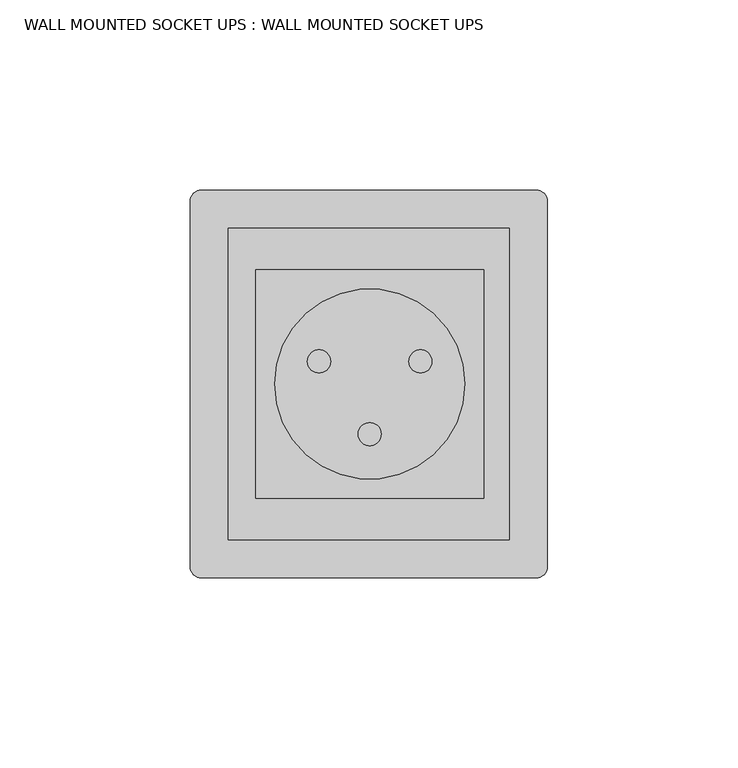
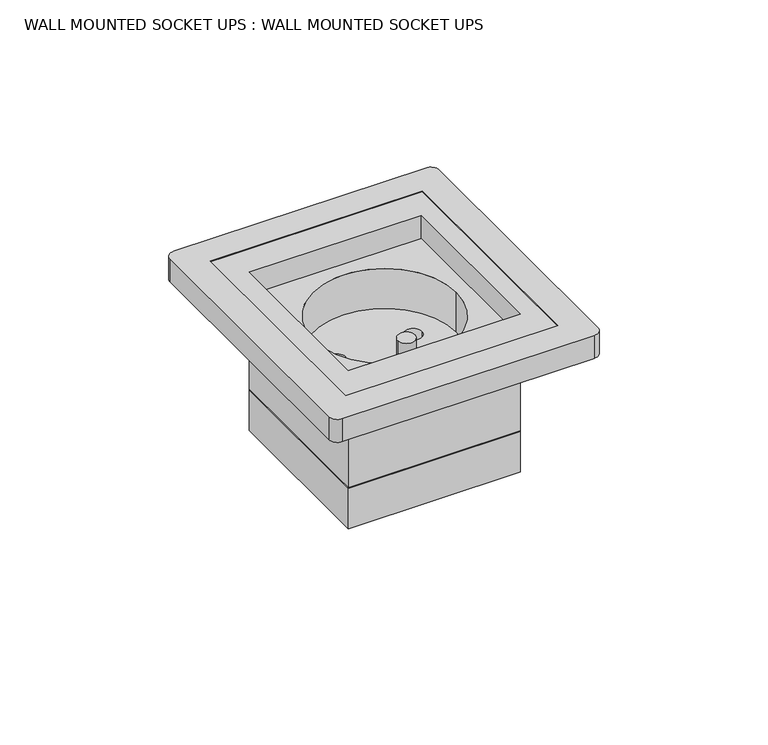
"""IFC4 building model written with IfcOpenShell, lengths in millimetres: proxy geometry, WALL MOUNTED SOCKET UPS : WALL MOUNTED SOCKET UPS."""

from ifc_helpers import new_model, si_unit, point, frame, frame_2d, origin, origin_with_axes, origin_2d, place, context, project, spatial, polyline, circle_curve, trimmed, segment, composite_curve, outline, extrude, source, transform, mapped, element, save


def wall_mounted_socket_ups_wall_mounted_socket_ups_4524048d(model_context):
    return source(origin(), model_context, "Body", "SweptSolid", [
        extrude(outline(composite_curve([segment(trimmed(circle_curve(frame_2d((-44.25, 48.0)), 3.0), [point((-47.25, 48.0))], [point((-44.25, 51.0))], False, "CARTESIAN"), True, "CONTINUOUS"), segment(polyline([(-44.25, 51.0), (43.75, 51.0)]), True, "CONTINUOUS"), segment(trimmed(circle_curve(frame_2d((43.75, 48.0)), 3.0), [point((43.75, 51.0))], [point((46.75, 48.0))], False, "CARTESIAN"), True, "CONTINUOUS"), segment(polyline([(46.75, 48.0), (46.75, -48.0)]), True, "CONTINUOUS"), segment(trimmed(circle_curve(frame_2d((43.75, -48.0)), 3.0), [point((46.75, -48.0))], [point((43.75, -51.0))], False, "CARTESIAN"), True, "CONTINUOUS"), segment(polyline([(43.75, -51.0), (-44.25, -51.0)]), True, "CONTINUOUS"), segment(trimmed(circle_curve(frame_2d((-44.25, -48.0)), 3.0), [point((-44.25, -51.0))], [point((-47.25, -48.0))], False, "CARTESIAN"), True, "CONTINUOUS"), segment(polyline([(-47.25, -48.0), (-47.25, 48.0)]), True, "CONTINUOUS")], self_intersect=False), holes=[polyline([(-37.25, -41.0), (36.75, -41.0), (36.75, 41.0), (-37.25, 41.0), (-37.25, -41.0)])]), origin_with_axes(), (0.0, 0.0, 1.0), 8.5),
        extrude(outline(composite_curve([segment(trimmed(circle_curve(frame_2d((0.0, -13.1689594)), 3.0295354), [point((3.0295354, -13.1689594))], [point((-3.0295354, -13.1689594))], False, "CARTESIAN"), True, "CONTINUOUS"), segment(trimmed(circle_curve(frame_2d((0.0, -13.1689594)), 3.0295354), [point((-3.0295354, -13.1689594))], [point((3.0295354, -13.1689594))], False, "CARTESIAN"), True, "CONTINUOUS")], self_intersect=False)), frame((0.0, 0.0, -15.0), z_axis=(0.0, 0.0, 1.0), x_axis=(1.0, 0.0, 0.0)), (0.0, 0.0, 1.0), 15.0),
        extrude(outline(polyline([(-30.0, -30.0), (-30.0, 30.0), (30.0, 30.0), (30.0, -30.0), (-30.0, -30.0)])), frame((0.0, 0.0, -50.0), z_axis=(0.0, 0.0, 1.0), x_axis=(1.0, 0.0, 0.0)), (0.0, 0.0, 1.0), 15.0),
        extrude(outline(polyline([(30.0, 30.0), (30.0, -30.0), (-30.0, -30.0), (-30.0, 30.0), (30.0, 30.0)]), holes=[composite_curve([segment(trimmed(circle_curve(frame_2d((-13.346453, 5.9309446)), 3.0295354), [point((-16.3759884, 5.9309446))], [point((-10.3169176, 5.9309446))], True, "CARTESIAN"), True, "CONTINUOUS"), segment(trimmed(circle_curve(frame_2d((-13.346453, 5.9309446)), 3.0295354), [point((-10.3169176, 5.9309446))], [point((-16.3759884, 5.9309446))], True, "CARTESIAN"), True, "CONTINUOUS")], self_intersect=False), composite_curve([segment(trimmed(circle_curve(frame_2d((13.346453, 5.9309446)), 3.0295354), [point((10.3169176, 5.9309446))], [point((16.3759884, 5.9309446))], True, "CARTESIAN"), True, "CONTINUOUS"), segment(trimmed(circle_curve(frame_2d((13.346453, 5.9309446)), 3.0295354), [point((16.3759884, 5.9309446))], [point((10.3169176, 5.9309446))], True, "CARTESIAN"), True, "CONTINUOUS")], self_intersect=False)]), frame((0.0, 0.0, -35.0), z_axis=(0.0, 0.0, 1.0), x_axis=(1.0, 0.0, 0.0)), (0.0, 0.0, 1.0), 20.0),
        extrude(outline(polyline([(30.0, -30.0), (-30.0, -30.0), (-30.0, 30.0), (30.0, 30.0), (30.0, -30.0)]), holes=[composite_curve([segment(trimmed(circle_curve(origin_2d(), 25.0), [point((25.0, 0.0))], [point((-25.0, 0.0))], True, "CARTESIAN"), True, "CONTINUOUS"), segment(trimmed(circle_curve(origin_2d(), 25.0), [point((-25.0, 0.0))], [point((25.0, 0.0))], True, "CARTESIAN"), True, "CONTINUOUS")], self_intersect=False)]), frame((0.0, 0.0, -15.0), z_axis=(0.0, 0.0, 1.0), x_axis=(1.0, 0.0, 0.0)), (0.0, 0.0, 1.0), 15.0),
        extrude(outline(polyline([(-37.25, -41.0), (-37.25, 41.0), (36.75, 41.0), (36.75, -41.0), (-37.25, -41.0)]), holes=[polyline([(30.0, 30.0), (-30.0, 30.0), (-30.0, -30.0), (30.0, -30.0), (30.0, 30.0)])]), origin_with_axes(), (0.0, 0.0, 1.0), 8.5),
    ])


if __name__ == "__main__":
    model = new_model("IFC4")
    model_context = context("Model", 3, world=origin())
    ifc_project = project(units=[si_unit("LENGTHUNIT", "METRE", prefix="MILLI")], contexts=[model_context])
    site = spatial("IfcSite", under=ifc_project)
    building = spatial("IfcBuilding", under=site)
    placement = place(None, origin())
    wall_mounted_socket_ups_wall_mounted_socket_ups_shape = wall_mounted_socket_ups_wall_mounted_socket_ups_4524048d(model_context)
    element("IfcBuildingElementProxy", 1, Name="WALL MOUNTED SOCKET UPS : WALL MOUNTED SOCKET UPS", ObjectType="WALL MOUNTED SOCKET UPS : WALL MOUNTED SOCKET UPS", at=placement, inside=building, context=model_context, shape_type="MappedRepresentation", body=[
        mapped(wall_mounted_socket_ups_wall_mounted_socket_ups_shape, transform((0.0, 0.0, 0.0), x_axis=(1.0, 0.0, 0.0), y_axis=(0.0, 1.0, 0.0), z_axis=(0.0, 0.0, 1.0))),
    ])
    save(model, "model.ifc")
